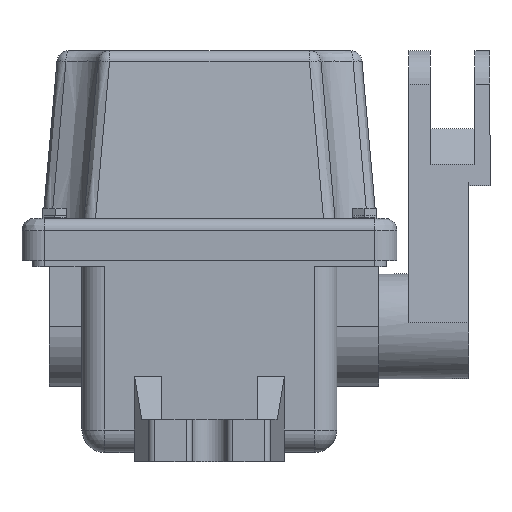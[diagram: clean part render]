
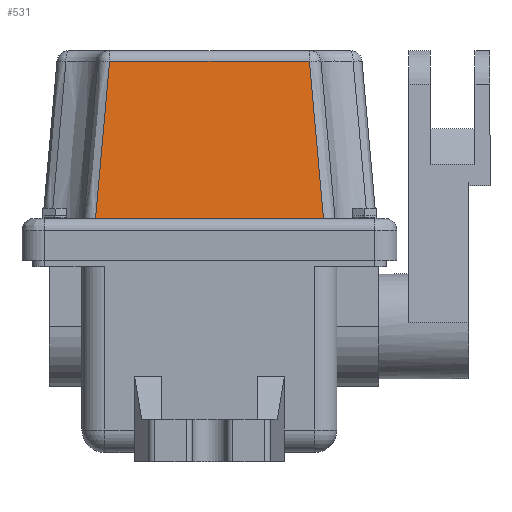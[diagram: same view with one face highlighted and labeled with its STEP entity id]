
A CAD part, left-side view. The second image highlights one B-rep face of the part: STEP entity #531.
In plain terms, the highlighted planar face has unit normal (-0.996, 0, 0.089).
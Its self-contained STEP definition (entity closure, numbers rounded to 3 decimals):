
#531 = ADVANCED_FACE( '', ( #1083 ), #1084, .T. );
#1083 = FACE_OUTER_BOUND( '', #1848, .T. );
#1084 = PLANE( '', #1849 );
#1848 = EDGE_LOOP( '', ( #3473, #3474, #3475, #3476 ) );
#1849 = AXIS2_PLACEMENT_3D( '', #3477, #3478, #3479 );
#3473 = ORIENTED_EDGE( '', *, *, #4867, .F. );
#3474 = ORIENTED_EDGE( '', *, *, #4868, .T. );
#3475 = ORIENTED_EDGE( '', *, *, #4869, .T. );
#3476 = ORIENTED_EDGE( '', *, *, #4806, .T. );
#3477 = CARTESIAN_POINT( '', ( -84.016, -62.5, 78. ) );
#3478 = DIRECTION( '', ( -0.996, 0., 0.089 ) );
#3479 = DIRECTION( '', ( 0.089, 0., 0.996 ) );
#4806 = EDGE_CURVE( '', #5969, #5966, #5970, .T. );
#4867 = EDGE_CURVE( '', #6056, #5966, #6057, .T. );
#4868 = EDGE_CURVE( '', #6056, #5884, #6058, .T. );
#4869 = EDGE_CURVE( '', #5884, #5969, #6059, .T. );
#5884 = VERTEX_POINT( '', #7271 );
#5966 = VERTEX_POINT( '', #7430 );
#5969 = VERTEX_POINT( '', #7468 );
#5970 = B_SPLINE_CURVE_WITH_KNOTS( '', 3, ( #7469, #7470, #7471, #7472, #7473, #7474, #7475, #7476, #7477, #7478 ), .UNSPECIFIED., .F., .F., ( 4, 3, 3, 4 ), ( 0., 0.038, 0.047, 0.053 ), .UNSPECIFIED. );
#6056 = VERTEX_POINT( '', #7605 );
#6057 = LINE( '', #7606, #7607 );
#6058 = B_SPLINE_CURVE_WITH_KNOTS( '', 3, ( #7608, #7609, #7610, #7611, #7612, #7613, #7614, #7615, #7616, #7617 ), .UNSPECIFIED., .F., .F., ( 4, 3, 3, 4 ), ( 0., 0.038, 0.05, 0.053 ), .UNSPECIFIED. );
#6059 = LINE( '', #7618, #7619 );
#7271 = CARTESIAN_POINT( '', ( -79.341, -33.313, 130.356 ) );
#7430 = CARTESIAN_POINT( '', ( -84.016, 37.987, 78. ) );
#7468 = CARTESIAN_POINT( '', ( -79.341, 33.313, 130.356 ) );
#7469 = CARTESIAN_POINT( '', ( -79.341, 33.313, 130.356 ) );
#7470 = CARTESIAN_POINT( '', ( -80.465, 34.436, 117.77 ) );
#7471 = CARTESIAN_POINT( '', ( -81.589, 35.56, 105.184 ) );
#7472 = CARTESIAN_POINT( '', ( -82.712, 36.684, 92.598 ) );
#7473 = CARTESIAN_POINT( '', ( -82.97, 36.941, 89.717 ) );
#7474 = CARTESIAN_POINT( '', ( -83.227, 37.199, 86.835 ) );
#7475 = CARTESIAN_POINT( '', ( -83.484, 37.456, 83.953 ) );
#7476 = CARTESIAN_POINT( '', ( -83.662, 37.633, 81.968 ) );
#7477 = CARTESIAN_POINT( '', ( -83.839, 37.81, 79.984 ) );
#7478 = CARTESIAN_POINT( '', ( -84.016, 37.987, 78. ) );
#7605 = CARTESIAN_POINT( '', ( -84.016, -37.987, 78. ) );
#7606 = CARTESIAN_POINT( '', ( -84.016, -62.5, 78. ) );
#7607 = VECTOR( '', #9129, 1000. );
#7608 = CARTESIAN_POINT( '', ( -84.016, -37.987, 78. ) );
#7609 = CARTESIAN_POINT( '', ( -82.892, -36.864, 90.586 ) );
#7610 = CARTESIAN_POINT( '', ( -81.768, -35.74, 103.172 ) );
#7611 = CARTESIAN_POINT( '', ( -80.645, -34.616, 115.757 ) );
#7612 = CARTESIAN_POINT( '', ( -80.297, -34.268, 119.656 ) );
#7613 = CARTESIAN_POINT( '', ( -79.949, -33.92, 123.554 ) );
#7614 = CARTESIAN_POINT( '', ( -79.601, -33.572, 127.452 ) );
#7615 = CARTESIAN_POINT( '', ( -79.514, -33.486, 128.42 ) );
#7616 = CARTESIAN_POINT( '', ( -79.428, -33.399, 129.388 ) );
#7617 = CARTESIAN_POINT( '', ( -79.341, -33.313, 130.356 ) );
#7618 = CARTESIAN_POINT( '', ( -79.341, -62.5, 130.356 ) );
#7619 = VECTOR( '', #9130, 1000. );
#9129 = DIRECTION( '', ( 0., 1., 0. ) );
#9130 = DIRECTION( '', ( 0., 1., 0. ) );
